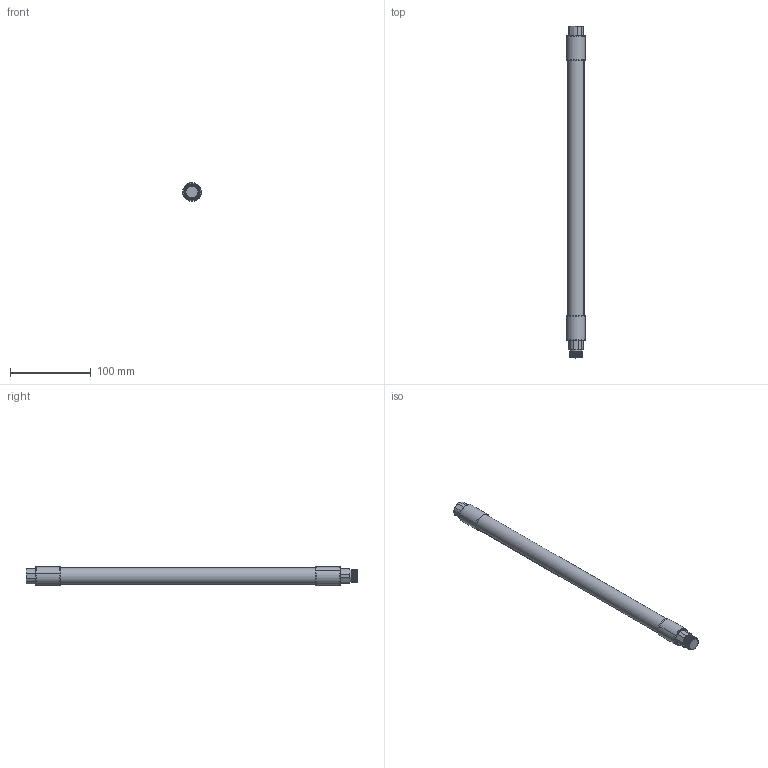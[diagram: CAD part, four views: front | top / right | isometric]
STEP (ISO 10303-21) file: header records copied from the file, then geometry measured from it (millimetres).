
FILE_DESCRIPTION (( 'STEP AP214' ), '1' );
FILE_NAME ('FB38-400.STEP', '2024-10-17T06:16:26', ( '' ), ( '' ), 'SwSTEP 2.0', 'SolidWorks 2021', '' );
FILE_SCHEMA (( 'AUTOMOTIVE_DESIGN' ));
Length unit declared in the file: millimetre
Products named in the file (5): 70038_F_BSP FEMALE; 70039; FB38 hose_400; FB38-400; 70038_M_BSP MALE
Assembly tree (5 placements, depth 2):
  FB38-400
    70038_M_BSP MALE
    FB38 hose_400
    70039  x2
    70038_F_BSP FEMALE
Bounding box: 22.97 x 410 x 22.95 mm (x, y, z)
Volume: 137157.8 mm3; surface area: 38009.4 mm2
Topology: 5 solids, 5 shells, 451 faces, 2097 edges, 1645 vertices
Faces by surface type: cylinder 318, torus 64, plane 30, sphere 24, cone 9, bspline 6
Entity records: 21862 total; most frequent: CARTESIAN_POINT 11447, ORIENTED_EDGE 2504, DIRECTION 1439, EDGE_CURVE 1252, VERTEX_POINT 946, B_SPLINE_CURVE_WITH_KNOTS 733, AXIS2_PLACEMENT_3D 598, EDGE_LOOP 334
